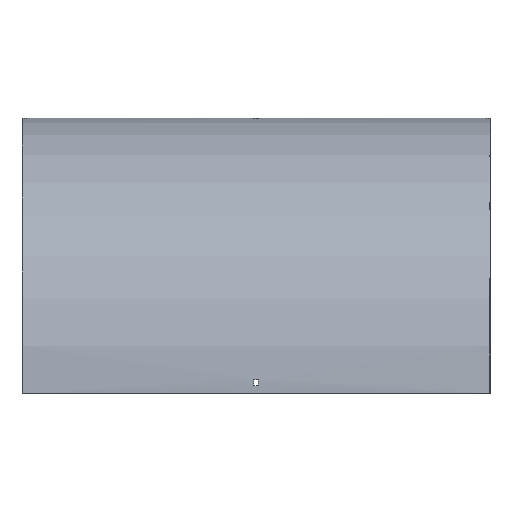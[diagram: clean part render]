
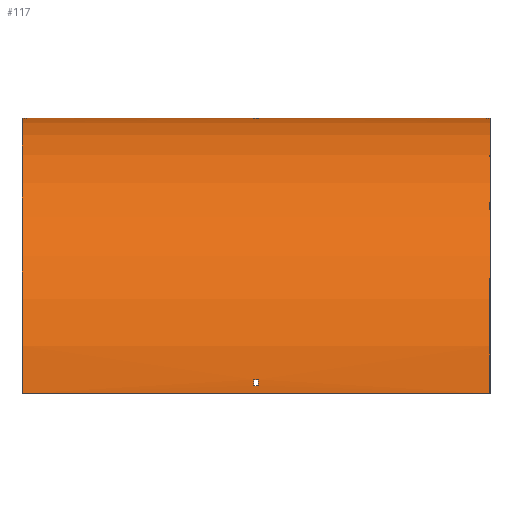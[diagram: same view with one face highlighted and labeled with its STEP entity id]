
A CAD part, top view. The second image highlights one B-rep face of the part: STEP entity #117.
In plain terms, the highlighted cylindrical face has radius 414 mm (diameter 828 mm), a partial arc.
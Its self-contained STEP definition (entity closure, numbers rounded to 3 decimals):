
#4 = ORIENTED_EDGE ( 'NONE', *, *, #566, .T. ) ;
#10 = DIRECTION ( 'NONE',  ( 1., 0., 0. ) ) ;
#11 = CARTESIAN_POINT ( 'NONE',  ( 351.5, 0., 0. ) ) ;
#12 = FACE_BOUND ( 'NONE', #328, .T. ) ;
#16 = DIRECTION ( 'NONE',  ( -1., 0., 0. ) ) ;
#32 = CARTESIAN_POINT ( 'NONE',  ( -351.5, 0., 0. ) ) ;
#44 = EDGE_CURVE ( 'NONE', #185, #160, #144, .T. ) ;
#49 = CARTESIAN_POINT ( 'NONE',  ( 351.5, -414., 414. ) ) ;
#53 = VERTEX_POINT ( 'NONE', #334 ) ;
#59 = DIRECTION ( 'NONE',  ( 0., 0., -1. ) ) ;
#62 = DIRECTION ( 'NONE',  ( 0., 0., 1. ) ) ;
#66 = CARTESIAN_POINT ( 'NONE',  ( 351.5, -0.533, 21. ) ) ;
#70 = DIRECTION ( 'NONE',  ( 0., 0., 1. ) ) ;
#71 = VECTOR ( 'NONE', #103, 1000. ) ;
#72 = CARTESIAN_POINT ( 'NONE',  ( -3.25, -393., 413.467 ) ) ;
#81 = ORIENTED_EDGE ( 'NONE', *, *, #471, .F. ) ;
#93 = DIRECTION ( 'NONE',  ( 1., 0., 0. ) ) ;
#95 = CIRCLE ( 'NONE', #221, 414. ) ;
#103 = DIRECTION ( 'NONE',  ( -1., 0., 0. ) ) ;
#106 = CARTESIAN_POINT ( 'NONE',  ( 351.5, -0.174, 12. ) ) ;
#108 = EDGE_CURVE ( 'NONE', #549, #550, #211, .T. ) ;
#109 = CARTESIAN_POINT ( 'NONE',  ( 3.25, -414., 0. ) ) ;
#113 = VECTOR ( 'NONE', #556, 1000. ) ;
#116 = CARTESIAN_POINT ( 'NONE',  ( 3.25, -414., 0. ) ) ;
#117 = ADVANCED_FACE ( 'NONE', ( #485, #435, #12 ), #209, .T. ) ;
#119 = DIRECTION ( 'NONE',  ( -1., 0., 0. ) ) ;
#122 = EDGE_CURVE ( 'NONE', #53, #592, #295, .T. ) ;
#139 = CARTESIAN_POINT ( 'NONE',  ( 3.25, -393., 413.467 ) ) ;
#144 = CIRCLE ( 'NONE', #473, 414. ) ;
#153 = EDGE_CURVE ( 'NONE', #451, #418, #552, .T. ) ;
#160 = VERTEX_POINT ( 'NONE', #217 ) ;
#168 = LINE ( 'NONE', #106, #335 ) ;
#169 = DIRECTION ( 'NONE',  ( 1., 0., 0. ) ) ;
#173 = AXIS2_PLACEMENT_3D ( 'NONE', #438, #16, #213 ) ;
#174 = ORIENTED_EDGE ( 'NONE', *, *, #153, .T. ) ;
#184 = ORIENTED_EDGE ( 'NONE', *, *, #604, .F. ) ;
#185 = VERTEX_POINT ( 'NONE', #32 ) ;
#202 = AXIS2_PLACEMENT_3D ( 'NONE', #481, #574, #70 ) ;
#209 = CYLINDRICAL_SURFACE ( 'NONE', #202, 414. ) ;
#211 = CIRCLE ( 'NONE', #385, 414. ) ;
#213 = DIRECTION ( 'NONE',  ( 0., 0., 1. ) ) ;
#217 = CARTESIAN_POINT ( 'NONE',  ( -351.5, -414., 414. ) ) ;
#220 = CARTESIAN_POINT ( 'NONE',  ( 351.5, -393., 413.467 ) ) ;
#221 = AXIS2_PLACEMENT_3D ( 'NONE', #109, #119, #62 ) ;
#237 = CARTESIAN_POINT ( 'NONE',  ( 351.5, -414., 414. ) ) ;
#241 = CARTESIAN_POINT ( 'NONE',  ( -3.25, -0.533, 21. ) ) ;
#246 = VECTOR ( 'NONE', #547, 1000. ) ;
#250 = VERTEX_POINT ( 'NONE', #139 ) ;
#260 = EDGE_CURVE ( 'NONE', #319, #185, #557, .T. ) ;
#270 = ORIENTED_EDGE ( 'NONE', *, *, #275, .F. ) ;
#275 = EDGE_CURVE ( 'NONE', #400, #250, #95, .T. ) ;
#283 = DIRECTION ( 'NONE',  ( -1., 0., 0. ) ) ;
#288 = DIRECTION ( 'NONE',  ( 0., 0., -1. ) ) ;
#295 = CIRCLE ( 'NONE', #392, 414. ) ;
#299 = DIRECTION ( 'NONE',  ( 1., 0., 0. ) ) ;
#316 = CARTESIAN_POINT ( 'NONE',  ( 3.25, -0.533, 21. ) ) ;
#319 = VERTEX_POINT ( 'NONE', #11 ) ;
#328 = EDGE_LOOP ( 'NONE', ( #458, #184, #270, #427 ) ) ;
#334 = CARTESIAN_POINT ( 'NONE',  ( 3.25, -0.174, 12. ) ) ;
#335 = VECTOR ( 'NONE', #299, 1000. ) ;
#351 = DIRECTION ( 'NONE',  ( 0., 1., 0. ) ) ;
#368 = AXIS2_PLACEMENT_3D ( 'NONE', #517, #393, #396 ) ;
#378 = CARTESIAN_POINT ( 'NONE',  ( 351.5, -402., 413.826 ) ) ;
#385 = AXIS2_PLACEMENT_3D ( 'NONE', #431, #10, #351 ) ;
#392 = AXIS2_PLACEMENT_3D ( 'NONE', #116, #169, #59 ) ;
#393 = DIRECTION ( 'NONE',  ( 1., 0., 0. ) ) ;
#394 = VECTOR ( 'NONE', #283, 1000. ) ;
#396 = DIRECTION ( 'NONE',  ( 0., 0., -1. ) ) ;
#400 = VERTEX_POINT ( 'NONE', #463 ) ;
#401 = ORIENTED_EDGE ( 'NONE', *, *, #122, .T. ) ;
#406 = VERTEX_POINT ( 'NONE', #237 ) ;
#418 = VERTEX_POINT ( 'NONE', #607 ) ;
#421 = LINE ( 'NONE', #378, #113 ) ;
#427 = ORIENTED_EDGE ( 'NONE', *, *, #477, .F. ) ;
#431 = CARTESIAN_POINT ( 'NONE',  ( -3.25, -414., 0. ) ) ;
#435 = FACE_BOUND ( 'NONE', #587, .T. ) ;
#438 = CARTESIAN_POINT ( 'NONE',  ( -3.25, -414., 0. ) ) ;
#439 = DIRECTION ( 'NONE',  ( -1., 0., 0. ) ) ;
#440 = VECTOR ( 'NONE', #439, 1000. ) ;
#444 = ORIENTED_EDGE ( 'NONE', *, *, #573, .T. ) ;
#445 = LINE ( 'NONE', #220, #246 ) ;
#451 = VERTEX_POINT ( 'NONE', #241 ) ;
#458 = ORIENTED_EDGE ( 'NONE', *, *, #108, .F. ) ;
#463 = CARTESIAN_POINT ( 'NONE',  ( 3.25, -402., 413.826 ) ) ;
#465 = LINE ( 'NONE', #49, #394 ) ;
#471 = EDGE_CURVE ( 'NONE', #406, #160, #465, .T. ) ;
#473 = AXIS2_PLACEMENT_3D ( 'NONE', #508, #93, #288 ) ;
#477 = EDGE_CURVE ( 'NONE', #550, #400, #421, .T. ) ;
#481 = CARTESIAN_POINT ( 'NONE',  ( 351.5, -414., 0. ) ) ;
#485 = FACE_OUTER_BOUND ( 'NONE', #584, .T. ) ;
#508 = CARTESIAN_POINT ( 'NONE',  ( -351.5, -414., 0. ) ) ;
#510 = CARTESIAN_POINT ( 'NONE',  ( 351.5, 0., 0. ) ) ;
#517 = CARTESIAN_POINT ( 'NONE',  ( 351.5, -414., 0. ) ) ;
#543 = CIRCLE ( 'NONE', #368, 414. ) ;
#545 = ORIENTED_EDGE ( 'NONE', *, *, #571, .F. ) ;
#546 = ORIENTED_EDGE ( 'NONE', *, *, #44, .T. ) ;
#547 = DIRECTION ( 'NONE',  ( -1., 0., 0. ) ) ;
#549 = VERTEX_POINT ( 'NONE', #72 ) ;
#550 = VERTEX_POINT ( 'NONE', #579 ) ;
#552 = CIRCLE ( 'NONE', #173, 414. ) ;
#556 = DIRECTION ( 'NONE',  ( 1., 0., 0. ) ) ;
#557 = LINE ( 'NONE', #510, #71 ) ;
#566 = EDGE_CURVE ( 'NONE', #592, #451, #581, .T. ) ;
#571 = EDGE_CURVE ( 'NONE', #319, #406, #543, .T. ) ;
#573 = EDGE_CURVE ( 'NONE', #418, #53, #168, .T. ) ;
#574 = DIRECTION ( 'NONE',  ( -1., 0., 0. ) ) ;
#579 = CARTESIAN_POINT ( 'NONE',  ( -3.25, -402., 413.826 ) ) ;
#581 = LINE ( 'NONE', #66, #440 ) ;
#584 = EDGE_LOOP ( 'NONE', ( #546, #81, #545, #600 ) ) ;
#587 = EDGE_LOOP ( 'NONE', ( #4, #174, #444, #401 ) ) ;
#592 = VERTEX_POINT ( 'NONE', #316 ) ;
#600 = ORIENTED_EDGE ( 'NONE', *, *, #260, .T. ) ;
#604 = EDGE_CURVE ( 'NONE', #250, #549, #445, .T. ) ;
#607 = CARTESIAN_POINT ( 'NONE',  ( -3.25, -0.174, 12. ) ) ;
